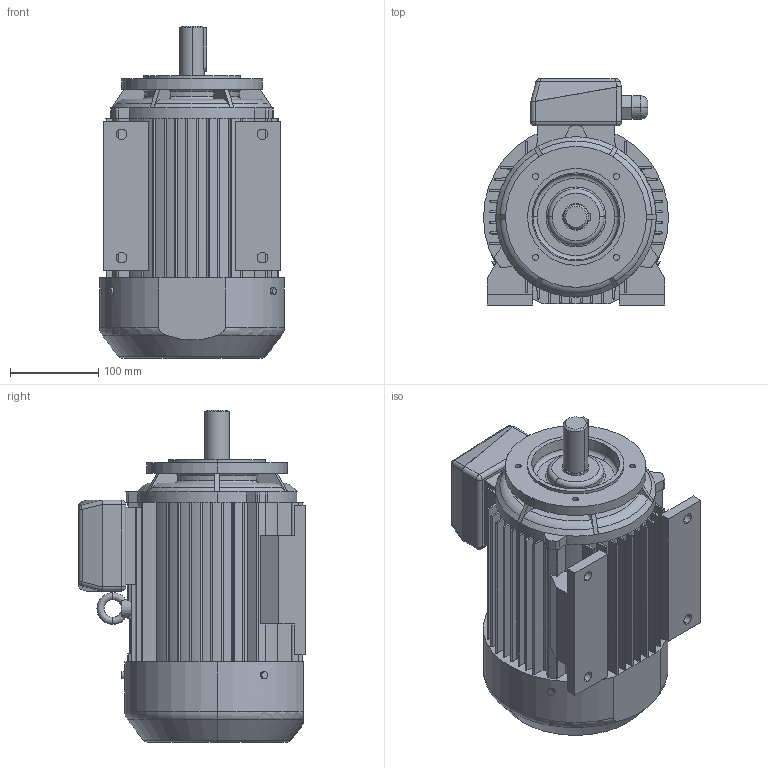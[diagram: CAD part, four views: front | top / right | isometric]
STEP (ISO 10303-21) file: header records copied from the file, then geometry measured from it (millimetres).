
FILE_DESCRIPTION (( 'STEP AP203' ), '1' );
FILE_NAME ('3SIEL100L2,6-B34-C2.STEP', '2016-02-08T12:15:24', ( 'Indukta' ), ( 'Celma Indukta S.A.' ), 'SwSTEP 2.0', 'SolidWorks 2003064', '' );
FILE_SCHEMA (( 'CONFIG_CONTROL_DESIGN' ));
Length unit declared in the file: millimetre
Products named in the file (1): 3SIEL100L2,6-B34-C2
Bounding box: 210 x 257 x 377 mm (x, y, z)
Volume: 9794575.5 mm3; surface area: 501880.6 mm2
Topology: 1 solids, 1 shells, 661 faces, 1792 edges, 1141 vertices
Faces by surface type: plane 335, cylinder 177, bspline 78, torus 43, cone 20, sphere 8
Entity records: 27650 total; most frequent: CARTESIAN_POINT 11265, ORIENTED_EDGE 3568, DIRECTION 3206, EDGE_CURVE 1784, VERTEX_POINT 1141, AXIS2_PLACEMENT_3D 1108, LINE 990, VECTOR 990
